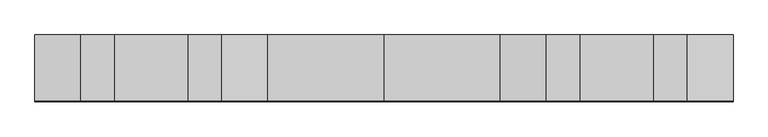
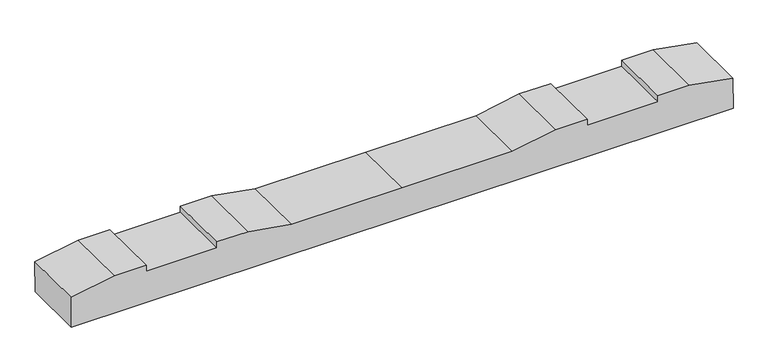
"""IFC4 building model written with IfcOpenShell, lengths in millimetres: proxy geometry, 轨枕-立面角度 : 轨枕-立面角度."""

from ifc_helpers import new_model, si_unit, frame, origin, place, context, project, spatial, polyline, outline, extrude, source, transform, mapped, element, save


def generic_models_98fa9b51(model_context):
    return source(origin(), model_context, "Body", "SweptSolid", [
        extrude(outline(polyline([(0.0, 0.0), (0.0, -100.0206889), (-137.8834664, -124.5), (-237.8834664, -124.5), (-237.8834664, -104.5), (-461.8834664, -104.5), (-461.8834664, -124.5), (-561.8834664, -124.5), (-699.8834664, -100.0), (-1049.8834664, -100.0), (-1399.8834664, -100.0), (-1537.8834664, -124.5), (-1637.8834664, -124.5), (-1637.8834664, -104.5), (-1861.8834664, -104.5), (-1861.8834664, -124.5), (-1961.8834664, -124.5), (-2099.7669328, -100.0206889), (-2099.7669328, 0.0), (0.0, 0.0)])), frame((-1049.8834664, 99.2105507, -105.2497821), z_axis=(0.0, -0.9999716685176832, 0.007527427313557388), x_axis=(-1.0, 0.0, 0.0)), (0.0, 0.0, 1.0), 200.0),
    ])


if __name__ == "__main__":
    model = new_model("IFC4")
    model_context = context("Model", 3, world=origin())
    ifc_project = project(units=[si_unit("LENGTHUNIT", "METRE", prefix="MILLI")], contexts=[model_context])
    site = spatial("IfcSite", under=ifc_project)
    building = spatial("IfcBuilding", under=site)
    placement = place(None, origin())
    generic_models_shape = generic_models_98fa9b51(model_context)
    element("IfcBuildingElementProxy", 1, Name="轨枕-立面角度 : 轨枕-立面角度", ObjectType="轨枕-立面角度 : 轨枕-立面角度", at=placement, inside=building, context=model_context, shape_type="MappedRepresentation", body=[
        mapped(generic_models_shape, transform((0.0, 0.0, 0.0), x_axis=(1.0, 0.0, 0.0), y_axis=(0.0, 1.0, 0.0), z_axis=(0.0, 0.0, 1.0))),
    ])
    save(model, "model.ifc")
